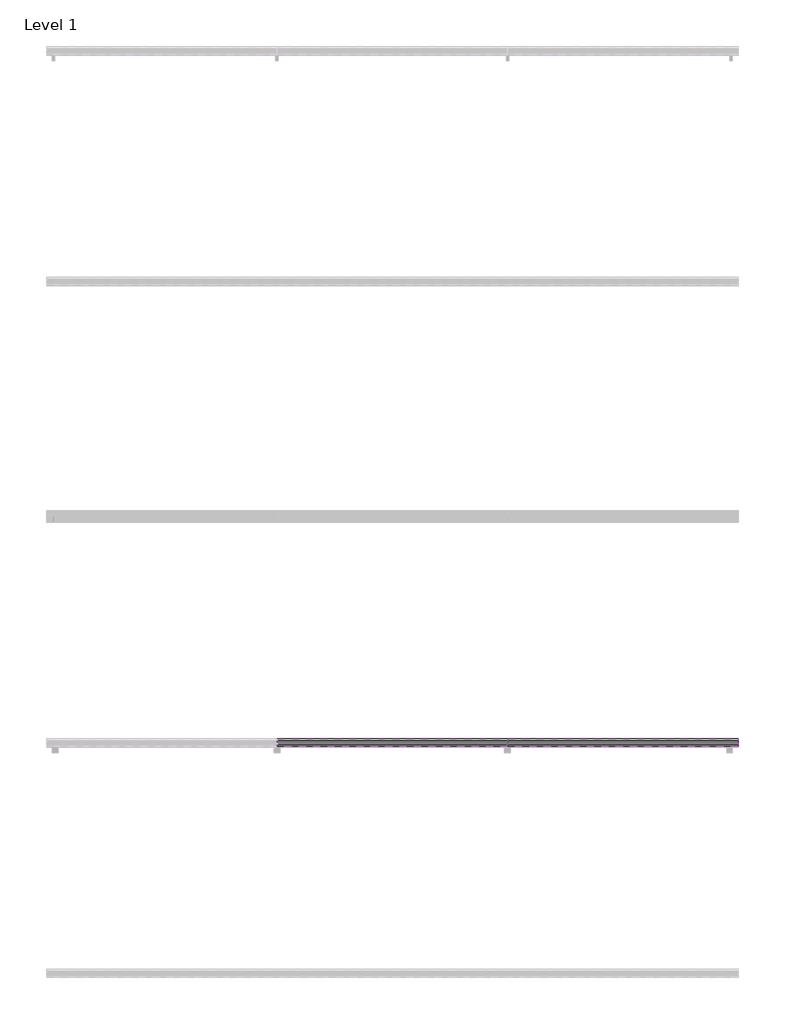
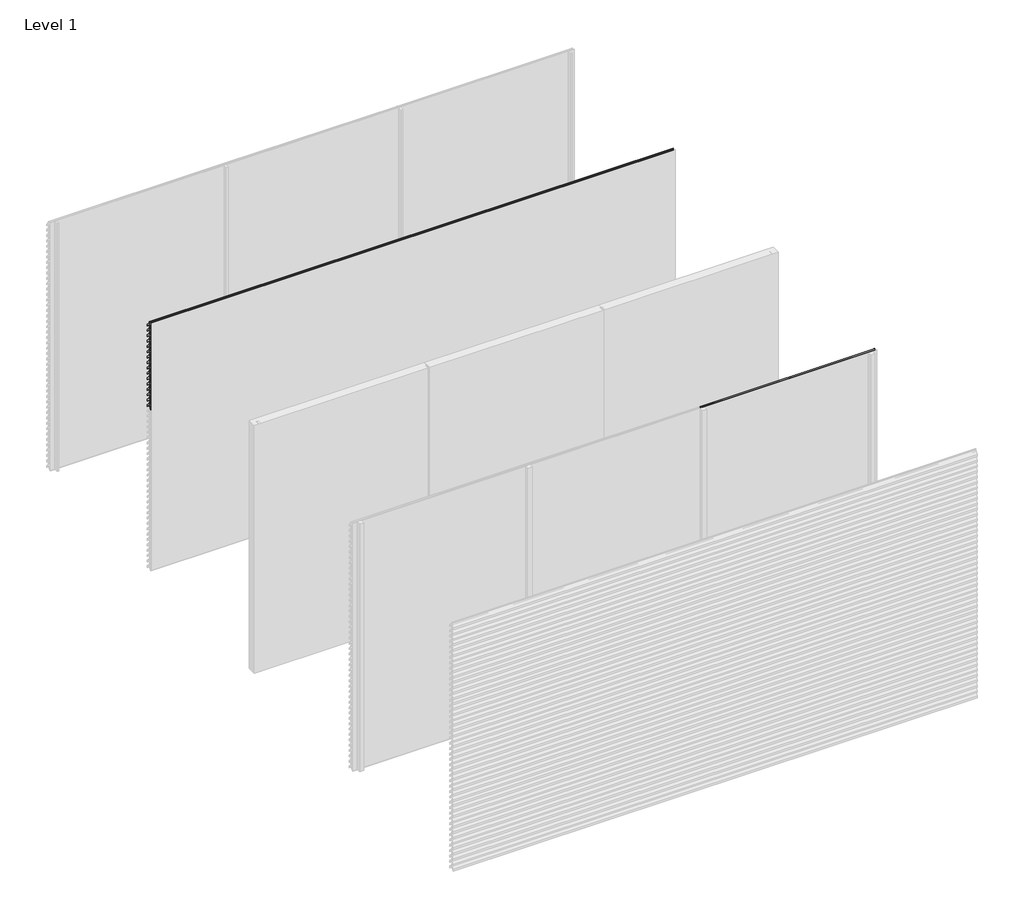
# One storey, part 5 of 9: 85 proxies.
"""IFC4 building model written with IfcOpenShell, lengths in millimetres."""

from ifc_helpers import new_model, si_unit, frame, origin, place, context, project, spatial, polyline, outline, extrude, element, save

model = new_model("IFC4")

# Units and contexts
model_context = context("Model", 3, world=origin())
ifc_project = project(units=[si_unit("LENGTHUNIT", "METRE", prefix="MILLI")], contexts=[model_context])

# Site, building, storey
site = spatial("IfcSite", under=ifc_project)
building = spatial("IfcBuilding", under=site)
storey = spatial("IfcBuildingStorey", under=building, Name="Level 1", Elevation=0.0)

# Proxies
placement = place(None, origin())
element("IfcBuildingElementProxy", 1, Name="Wall Sweeps", at=placement, inside=storey, context=model_context, shape_type="SweptSolid", body=[
    extrude(outline(polyline([(-7926.0, 2942.0), (-7926.0, 2919.0), (-7961.5, 2954.5), (-7997.0, 2919.0), (-7997.0, 2942.0), (-7962.5, 2976.5), (-7962.5, 2990.0), (-7960.5, 2990.0), (-7960.5, 2976.5), (-7926.0, 2942.0)])), frame((0.0, 0.0, 0.0), z_axis=(1.0, 0.0, 0.0), x_axis=(0.0, 1.0, 0.0)), (0.0, 0.0, 1.0), 6000.0),
])
element("IfcBuildingElementProxy", 2, Name="Wall Sweeps", at=placement, inside=storey, context=model_context, shape_type="SweptSolid", body=[
    extrude(outline(polyline([(-7926.0, 2877.0), (-7926.0, 2854.0), (-7961.5, 2889.5), (-7997.0, 2854.0), (-7997.0, 2877.0), (-7962.5, 2911.5), (-7962.5, 2925.0), (-7960.5, 2925.0), (-7960.5, 2911.5), (-7926.0, 2877.0)])), frame((0.0, 0.0, 0.0), z_axis=(1.0, 0.0, 0.0), x_axis=(0.0, 1.0, 0.0)), (0.0, 0.0, 1.0), 6000.0),
])
element("IfcBuildingElementProxy", 3, Name="Wall Sweeps", at=placement, inside=storey, context=model_context, shape_type="SweptSolid", body=[
    extrude(outline(polyline([(-7926.0, 2812.0), (-7926.0, 2789.0), (-7961.5, 2824.5), (-7997.0, 2789.0), (-7997.0, 2812.0), (-7962.5, 2846.5), (-7962.5, 2860.0), (-7960.5, 2860.0), (-7960.5, 2846.5), (-7926.0, 2812.0)])), frame((0.0, 0.0, 0.0), z_axis=(1.0, 0.0, 0.0), x_axis=(0.0, 1.0, 0.0)), (0.0, 0.0, 1.0), 6000.0),
])
element("IfcBuildingElementProxy", 4, Name="Wall Sweeps", at=placement, inside=storey, context=model_context, shape_type="SweptSolid", body=[
    extrude(outline(polyline([(-7926.0, 2747.0), (-7926.0, 2724.0), (-7961.5, 2759.5), (-7997.0, 2724.0), (-7997.0, 2747.0), (-7962.5, 2781.5), (-7962.5, 2795.0), (-7960.5, 2795.0), (-7960.5, 2781.5), (-7926.0, 2747.0)])), frame((0.0, 0.0, 0.0), z_axis=(1.0, 0.0, 0.0), x_axis=(0.0, 1.0, 0.0)), (0.0, 0.0, 1.0), 6000.0),
])
element("IfcBuildingElementProxy", 5, Name="Wall Sweeps", at=placement, inside=storey, context=model_context, shape_type="SweptSolid", body=[
    extrude(outline(polyline([(-7926.0, 2682.0), (-7926.0, 2659.0), (-7961.5, 2694.5), (-7997.0, 2659.0), (-7997.0, 2682.0), (-7962.5, 2716.5), (-7962.5, 2730.0), (-7960.5, 2730.0), (-7960.5, 2716.5), (-7926.0, 2682.0)])), frame((0.0, 0.0, 0.0), z_axis=(1.0, 0.0, 0.0), x_axis=(0.0, 1.0, 0.0)), (0.0, 0.0, 1.0), 6000.0),
])
element("IfcBuildingElementProxy", 6, Name="Wall Sweeps", at=placement, inside=storey, context=model_context, shape_type="SweptSolid", body=[
    extrude(outline(polyline([(-7926.0, 2617.0), (-7926.0, 2594.0), (-7961.5, 2629.5), (-7997.0, 2594.0), (-7997.0, 2617.0), (-7962.5, 2651.5), (-7962.5, 2665.0), (-7960.5, 2665.0), (-7960.5, 2651.5), (-7926.0, 2617.0)])), frame((0.0, 0.0, 0.0), z_axis=(1.0, 0.0, 0.0), x_axis=(0.0, 1.0, 0.0)), (0.0, 0.0, 1.0), 6000.0),
])
element("IfcBuildingElementProxy", 7, Name="Wall Sweeps", at=placement, inside=storey, context=model_context, shape_type="SweptSolid", body=[
    extrude(outline(polyline([(-7926.0, 2552.0), (-7926.0, 2529.0), (-7961.5, 2564.5), (-7997.0, 2529.0), (-7997.0, 2552.0), (-7962.5, 2586.5), (-7962.5, 2600.0), (-7960.5, 2600.0), (-7960.5, 2586.5), (-7926.0, 2552.0)])), frame((0.0, 0.0, 0.0), z_axis=(1.0, 0.0, 0.0), x_axis=(0.0, 1.0, 0.0)), (0.0, 0.0, 1.0), 6000.0),
])
element("IfcBuildingElementProxy", 8, Name="Wall Sweeps", at=placement, inside=storey, context=model_context, shape_type="SweptSolid", body=[
    extrude(outline(polyline([(-7926.0, 2487.0), (-7926.0, 2464.0), (-7961.5, 2499.5), (-7997.0, 2464.0), (-7997.0, 2487.0), (-7962.5, 2521.5), (-7962.5, 2535.0), (-7960.5, 2535.0), (-7960.5, 2521.5), (-7926.0, 2487.0)])), frame((0.0, 0.0, 0.0), z_axis=(1.0, 0.0, 0.0), x_axis=(0.0, 1.0, 0.0)), (0.0, 0.0, 1.0), 6000.0),
])
element("IfcBuildingElementProxy", 9, Name="Wall Sweeps", at=placement, inside=storey, context=model_context, shape_type="SweptSolid", body=[
    extrude(outline(polyline([(-7926.0, 2422.0), (-7926.0, 2399.0), (-7961.5, 2434.5), (-7997.0, 2399.0), (-7997.0, 2422.0), (-7962.5, 2456.5), (-7962.5, 2470.0), (-7960.5, 2470.0), (-7960.5, 2456.5), (-7926.0, 2422.0)])), frame((0.0, 0.0, 0.0), z_axis=(1.0, 0.0, 0.0), x_axis=(0.0, 1.0, 0.0)), (0.0, 0.0, 1.0), 6000.0),
])
element("IfcBuildingElementProxy", 10, Name="Wall Sweeps", at=placement, inside=storey, context=model_context, shape_type="SweptSolid", body=[
    extrude(outline(polyline([(-7926.0, 2357.0), (-7926.0, 2334.0), (-7961.5, 2369.5), (-7997.0, 2334.0), (-7997.0, 2357.0), (-7962.5, 2391.5), (-7962.5, 2405.0), (-7960.5, 2405.0), (-7960.5, 2391.5), (-7926.0, 2357.0)])), frame((0.0, 0.0, 0.0), z_axis=(1.0, 0.0, 0.0), x_axis=(0.0, 1.0, 0.0)), (0.0, 0.0, 1.0), 6000.0),
])
element("IfcBuildingElementProxy", 11, Name="Wall Sweeps", at=placement, inside=storey, context=model_context, shape_type="SweptSolid", body=[
    extrude(outline(polyline([(-7926.0, 2292.0), (-7926.0, 2269.0), (-7961.5, 2304.5), (-7997.0, 2269.0), (-7997.0, 2292.0), (-7962.5, 2326.5), (-7962.5, 2340.0), (-7960.5, 2340.0), (-7960.5, 2326.5), (-7926.0, 2292.0)])), frame((0.0, 0.0, 0.0), z_axis=(1.0, 0.0, 0.0), x_axis=(0.0, 1.0, 0.0)), (0.0, 0.0, 1.0), 6000.0),
])
element("IfcBuildingElementProxy", 12, Name="Wall Sweeps", at=placement, inside=storey, context=model_context, shape_type="SweptSolid", body=[
    extrude(outline(polyline([(-7926.0, 2227.0), (-7926.0, 2204.0), (-7961.5, 2239.5), (-7997.0, 2204.0), (-7997.0, 2227.0), (-7962.5, 2261.5), (-7962.5, 2275.0), (-7960.5, 2275.0), (-7960.5, 2261.5), (-7926.0, 2227.0)])), frame((0.0, 0.0, 0.0), z_axis=(1.0, 0.0, 0.0), x_axis=(0.0, 1.0, 0.0)), (0.0, 0.0, 1.0), 6000.0),
])
element("IfcBuildingElementProxy", 13, Name="Wall Sweeps", at=placement, inside=storey, context=model_context, shape_type="SweptSolid", body=[
    extrude(outline(polyline([(-7926.0, 2162.0), (-7926.0, 2139.0), (-7961.5, 2174.5), (-7997.0, 2139.0), (-7997.0, 2162.0), (-7962.5, 2196.5), (-7962.5, 2210.0), (-7960.5, 2210.0), (-7960.5, 2196.5), (-7926.0, 2162.0)])), frame((0.0, 0.0, 0.0), z_axis=(1.0, 0.0, 0.0), x_axis=(0.0, 1.0, 0.0)), (0.0, 0.0, 1.0), 6000.0),
])
element("IfcBuildingElementProxy", 14, Name="Wall Sweeps", at=placement, inside=storey, context=model_context, shape_type="SweptSolid", body=[
    extrude(outline(polyline([(-7926.0, 2097.0), (-7926.0, 2074.0), (-7961.5, 2109.5), (-7997.0, 2074.0), (-7997.0, 2097.0), (-7962.5, 2131.5), (-7962.5, 2145.0), (-7960.5, 2145.0), (-7960.5, 2131.5), (-7926.0, 2097.0)])), frame((0.0, 0.0, 0.0), z_axis=(1.0, 0.0, 0.0), x_axis=(0.0, 1.0, 0.0)), (0.0, 0.0, 1.0), 6000.0),
])
element("IfcBuildingElementProxy", 15, Name="Wall Sweeps", at=placement, inside=storey, context=model_context, shape_type="SweptSolid", body=[
    extrude(outline(polyline([(-7926.0, 2032.0), (-7926.0, 2009.0), (-7961.5, 2044.5), (-7997.0, 2009.0), (-7997.0, 2032.0), (-7962.5, 2066.5), (-7962.5, 2080.0), (-7960.5, 2080.0), (-7960.5, 2066.5), (-7926.0, 2032.0)])), frame((0.0, 0.0, 0.0), z_axis=(1.0, 0.0, 0.0), x_axis=(0.0, 1.0, 0.0)), (0.0, 0.0, 1.0), 6000.0),
])
element("IfcBuildingElementProxy", 16, Name="Wall Sweeps", at=placement, inside=storey, context=model_context, shape_type="SweptSolid", body=[
    extrude(outline(polyline([(-7926.0, 1967.0), (-7926.0, 1944.0), (-7961.5, 1979.5), (-7997.0, 1944.0), (-7997.0, 1967.0), (-7962.5, 2001.5), (-7962.5, 2015.0), (-7960.5, 2015.0), (-7960.5, 2001.5), (-7926.0, 1967.0)])), frame((0.0, 0.0, 0.0), z_axis=(1.0, 0.0, 0.0), x_axis=(0.0, 1.0, 0.0)), (0.0, 0.0, 1.0), 6000.0),
])
element("IfcBuildingElementProxy", 17, Name="Wall Sweeps", at=placement, inside=storey, context=model_context, shape_type="SweptSolid", body=[
    extrude(outline(polyline([(-11926.0, 1447.0), (-11926.0, 1424.0), (-11961.5, 1459.5), (-11997.0, 1424.0), (-11997.0, 1447.0), (-11962.5, 1481.5), (-11962.5, 1495.0), (-11960.5, 1495.0), (-11960.5, 1481.5), (-11926.0, 1447.0)])), frame((2000.0, 0.0, 0.0), z_axis=(1.0, 0.0, 0.0), x_axis=(0.0, 1.0, 0.0)), (0.0, 0.0, 1.0), 2000.0),
])
element("IfcBuildingElementProxy", 18, Name="Wall Sweeps", at=placement, inside=storey, context=model_context, shape_type="SweptSolid", body=[
    extrude(outline(polyline([(-11926.0, 1382.0), (-11926.0, 1359.0), (-11961.5, 1394.5), (-11997.0, 1359.0), (-11997.0, 1382.0), (-11962.5, 1416.5), (-11962.5, 1430.0), (-11960.5, 1430.0), (-11960.5, 1416.5), (-11926.0, 1382.0)])), frame((2000.0, 0.0, 0.0), z_axis=(1.0, 0.0, 0.0), x_axis=(0.0, 1.0, 0.0)), (0.0, 0.0, 1.0), 2000.0),
])
element("IfcBuildingElementProxy", 19, Name="Wall Sweeps", at=placement, inside=storey, context=model_context, shape_type="SweptSolid", body=[
    extrude(outline(polyline([(-11926.0, 1317.0), (-11926.0, 1294.0), (-11961.5, 1329.5), (-11997.0, 1294.0), (-11997.0, 1317.0), (-11962.5, 1351.5), (-11962.5, 1365.0), (-11960.5, 1365.0), (-11960.5, 1351.5), (-11926.0, 1317.0)])), frame((2000.0, 0.0, 0.0), z_axis=(1.0, 0.0, 0.0), x_axis=(0.0, 1.0, 0.0)), (0.0, 0.0, 1.0), 2000.0),
])
element("IfcBuildingElementProxy", 20, Name="Wall Sweeps", at=placement, inside=storey, context=model_context, shape_type="SweptSolid", body=[
    extrude(outline(polyline([(-11926.0, 1252.0), (-11926.0, 1229.0), (-11961.5, 1264.5), (-11997.0, 1229.0), (-11997.0, 1252.0), (-11962.5, 1286.5), (-11962.5, 1300.0), (-11960.5, 1300.0), (-11960.5, 1286.5), (-11926.0, 1252.0)])), frame((2000.0, 0.0, 0.0), z_axis=(1.0, 0.0, 0.0), x_axis=(0.0, 1.0, 0.0)), (0.0, 0.0, 1.0), 2000.0),
])
element("IfcBuildingElementProxy", 21, Name="Wall Sweeps", at=placement, inside=storey, context=model_context, shape_type="SweptSolid", body=[
    extrude(outline(polyline([(-11926.0, 1187.0), (-11926.0, 1164.0), (-11961.5, 1199.5), (-11997.0, 1164.0), (-11997.0, 1187.0), (-11962.5, 1221.5), (-11962.5, 1235.0), (-11960.5, 1235.0), (-11960.5, 1221.5), (-11926.0, 1187.0)])), frame((2000.0, 0.0, 0.0), z_axis=(1.0, 0.0, 0.0), x_axis=(0.0, 1.0, 0.0)), (0.0, 0.0, 1.0), 2000.0),
])
element("IfcBuildingElementProxy", 22, Name="Wall Sweeps", at=placement, inside=storey, context=model_context, shape_type="SweptSolid", body=[
    extrude(outline(polyline([(-11926.0, 1122.0), (-11926.0, 1099.0), (-11961.5, 1134.5), (-11997.0, 1099.0), (-11997.0, 1122.0), (-11962.5, 1156.5), (-11962.5, 1170.0), (-11960.5, 1170.0), (-11960.5, 1156.5), (-11926.0, 1122.0)])), frame((2000.0, 0.0, 0.0), z_axis=(1.0, 0.0, 0.0), x_axis=(0.0, 1.0, 0.0)), (0.0, 0.0, 1.0), 2000.0),
])
element("IfcBuildingElementProxy", 23, Name="Wall Sweeps", at=placement, inside=storey, context=model_context, shape_type="SweptSolid", body=[
    extrude(outline(polyline([(-11926.0, 1057.0), (-11926.0, 1034.0), (-11961.5, 1069.5), (-11997.0, 1034.0), (-11997.0, 1057.0), (-11962.5, 1091.5), (-11962.5, 1105.0), (-11960.5, 1105.0), (-11960.5, 1091.5), (-11926.0, 1057.0)])), frame((2000.0, 0.0, 0.0), z_axis=(1.0, 0.0, 0.0), x_axis=(0.0, 1.0, 0.0)), (0.0, 0.0, 1.0), 2000.0),
])
element("IfcBuildingElementProxy", 24, Name="Wall Sweeps", at=placement, inside=storey, context=model_context, shape_type="SweptSolid", body=[
    extrude(outline(polyline([(-11926.0, 992.0), (-11926.0, 969.0), (-11961.5, 1004.5), (-11997.0, 969.0), (-11997.0, 992.0), (-11962.5, 1026.5), (-11962.5, 1040.0), (-11960.5, 1040.0), (-11960.5, 1026.5), (-11926.0, 992.0)])), frame((2000.0, 0.0, 0.0), z_axis=(1.0, 0.0, 0.0), x_axis=(0.0, 1.0, 0.0)), (0.0, 0.0, 1.0), 2000.0),
])
element("IfcBuildingElementProxy", 25, Name="Wall Sweeps", at=placement, inside=storey, context=model_context, shape_type="SweptSolid", body=[
    extrude(outline(polyline([(-11926.0, 927.0), (-11926.0, 904.0), (-11961.5, 939.5), (-11997.0, 904.0), (-11997.0, 927.0), (-11962.5, 961.5), (-11962.5, 975.0), (-11960.5, 975.0), (-11960.5, 961.5), (-11926.0, 927.0)])), frame((2000.0, 0.0, 0.0), z_axis=(1.0, 0.0, 0.0), x_axis=(0.0, 1.0, 0.0)), (0.0, 0.0, 1.0), 2000.0),
])
element("IfcBuildingElementProxy", 26, Name="Wall Sweeps", at=placement, inside=storey, context=model_context, shape_type="SweptSolid", body=[
    extrude(outline(polyline([(-11926.0, 862.0), (-11926.0, 839.0), (-11961.5, 874.5), (-11997.0, 839.0), (-11997.0, 862.0), (-11962.5, 896.5), (-11962.5, 910.0), (-11960.5, 910.0), (-11960.5, 896.5), (-11926.0, 862.0)])), frame((2000.0, 0.0, 0.0), z_axis=(1.0, 0.0, 0.0), x_axis=(0.0, 1.0, 0.0)), (0.0, 0.0, 1.0), 2000.0),
])
element("IfcBuildingElementProxy", 27, Name="Wall Sweeps", at=placement, inside=storey, context=model_context, shape_type="SweptSolid", body=[
    extrude(outline(polyline([(-11926.0, 797.0), (-11926.0, 774.0), (-11961.5, 809.5), (-11997.0, 774.0), (-11997.0, 797.0), (-11962.5, 831.5), (-11962.5, 845.0), (-11960.5, 845.0), (-11960.5, 831.5), (-11926.0, 797.0)])), frame((2000.0, 0.0, 0.0), z_axis=(1.0, 0.0, 0.0), x_axis=(0.0, 1.0, 0.0)), (0.0, 0.0, 1.0), 2000.0),
])
element("IfcBuildingElementProxy", 28, Name="Wall Sweeps", at=placement, inside=storey, context=model_context, shape_type="SweptSolid", body=[
    extrude(outline(polyline([(-11926.0, 732.0), (-11926.0, 709.0), (-11961.5, 744.5), (-11997.0, 709.0), (-11997.0, 732.0), (-11962.5, 766.5), (-11962.5, 780.0), (-11960.5, 780.0), (-11960.5, 766.5), (-11926.0, 732.0)])), frame((2000.0, 0.0, 0.0), z_axis=(1.0, 0.0, 0.0), x_axis=(0.0, 1.0, 0.0)), (0.0, 0.0, 1.0), 2000.0),
])
element("IfcBuildingElementProxy", 29, Name="Wall Sweeps", at=placement, inside=storey, context=model_context, shape_type="SweptSolid", body=[
    extrude(outline(polyline([(-11926.0, 667.0), (-11926.0, 644.0), (-11961.5, 679.5), (-11997.0, 644.0), (-11997.0, 667.0), (-11962.5, 701.5), (-11962.5, 715.0), (-11960.5, 715.0), (-11960.5, 701.5), (-11926.0, 667.0)])), frame((2000.0, 0.0, 0.0), z_axis=(1.0, 0.0, 0.0), x_axis=(0.0, 1.0, 0.0)), (0.0, 0.0, 1.0), 2000.0),
])
element("IfcBuildingElementProxy", 30, Name="Wall Sweeps", at=placement, inside=storey, context=model_context, shape_type="SweptSolid", body=[
    extrude(outline(polyline([(-11926.0, 602.0), (-11926.0, 579.0), (-11961.5, 614.5), (-11997.0, 579.0), (-11997.0, 602.0), (-11962.5, 636.5), (-11962.5, 650.0), (-11960.5, 650.0), (-11960.5, 636.5), (-11926.0, 602.0)])), frame((2000.0, 0.0, 0.0), z_axis=(1.0, 0.0, 0.0), x_axis=(0.0, 1.0, 0.0)), (0.0, 0.0, 1.0), 2000.0),
])
element("IfcBuildingElementProxy", 31, Name="Wall Sweeps", at=placement, inside=storey, context=model_context, shape_type="SweptSolid", body=[
    extrude(outline(polyline([(-11926.0, 537.0), (-11926.0, 514.0), (-11961.5, 549.5), (-11997.0, 514.0), (-11997.0, 537.0), (-11962.5, 571.5), (-11962.5, 585.0), (-11960.5, 585.0), (-11960.5, 571.5), (-11926.0, 537.0)])), frame((2000.0, 0.0, 0.0), z_axis=(1.0, 0.0, 0.0), x_axis=(0.0, 1.0, 0.0)), (0.0, 0.0, 1.0), 2000.0),
])
element("IfcBuildingElementProxy", 32, Name="Wall Sweeps", at=placement, inside=storey, context=model_context, shape_type="SweptSolid", body=[
    extrude(outline(polyline([(-11926.0, 472.0), (-11926.0, 449.0), (-11961.5, 484.5), (-11997.0, 449.0), (-11997.0, 472.0), (-11962.5, 506.5), (-11962.5, 520.0), (-11960.5, 520.0), (-11960.5, 506.5), (-11926.0, 472.0)])), frame((2000.0, 0.0, 0.0), z_axis=(1.0, 0.0, 0.0), x_axis=(0.0, 1.0, 0.0)), (0.0, 0.0, 1.0), 2000.0),
])
element("IfcBuildingElementProxy", 33, Name="Wall Sweeps", at=placement, inside=storey, context=model_context, shape_type="SweptSolid", body=[
    extrude(outline(polyline([(-11926.0, 407.0), (-11926.0, 384.0), (-11961.5, 419.5), (-11997.0, 384.0), (-11997.0, 407.0), (-11962.5, 441.5), (-11962.5, 455.0), (-11960.5, 455.0), (-11960.5, 441.5), (-11926.0, 407.0)])), frame((2000.0, 0.0, 0.0), z_axis=(1.0, 0.0, 0.0), x_axis=(0.0, 1.0, 0.0)), (0.0, 0.0, 1.0), 2000.0),
])
element("IfcBuildingElementProxy", 34, Name="Wall Sweeps", at=placement, inside=storey, context=model_context, shape_type="SweptSolid", body=[
    extrude(outline(polyline([(-11926.0, 342.0), (-11926.0, 319.0), (-11961.5, 354.5), (-11997.0, 319.0), (-11997.0, 342.0), (-11962.5, 376.5), (-11962.5, 390.0), (-11960.5, 390.0), (-11960.5, 376.5), (-11926.0, 342.0)])), frame((2000.0, 0.0, 0.0), z_axis=(1.0, 0.0, 0.0), x_axis=(0.0, 1.0, 0.0)), (0.0, 0.0, 1.0), 2000.0),
])
element("IfcBuildingElementProxy", 35, Name="Wall Sweeps", at=placement, inside=storey, context=model_context, shape_type="SweptSolid", body=[
    extrude(outline(polyline([(-11926.0, 277.0), (-11926.0, 254.0), (-11961.5, 289.5), (-11997.0, 254.0), (-11997.0, 277.0), (-11962.5, 311.5), (-11962.5, 325.0), (-11960.5, 325.0), (-11960.5, 311.5), (-11926.0, 277.0)])), frame((2000.0, 0.0, 0.0), z_axis=(1.0, 0.0, 0.0), x_axis=(0.0, 1.0, 0.0)), (0.0, 0.0, 1.0), 2000.0),
])
element("IfcBuildingElementProxy", 36, Name="Wall Sweeps", at=placement, inside=storey, context=model_context, shape_type="SweptSolid", body=[
    extrude(outline(polyline([(-11926.0, 212.0), (-11926.0, 189.0), (-11961.5, 224.5), (-11997.0, 189.0), (-11997.0, 212.0), (-11962.5, 246.5), (-11962.5, 260.0), (-11960.5, 260.0), (-11960.5, 246.5), (-11926.0, 212.0)])), frame((2000.0, 0.0, 0.0), z_axis=(1.0, 0.0, 0.0), x_axis=(0.0, 1.0, 0.0)), (0.0, 0.0, 1.0), 2000.0),
])
element("IfcBuildingElementProxy", 37, Name="Wall Sweeps", at=placement, inside=storey, context=model_context, shape_type="SweptSolid", body=[
    extrude(outline(polyline([(-11926.0, 147.0), (-11926.0, 124.0), (-11961.5, 159.5), (-11997.0, 124.0), (-11997.0, 147.0), (-11962.5, 181.5), (-11962.5, 195.0), (-11960.5, 195.0), (-11960.5, 181.5), (-11926.0, 147.0)])), frame((2000.0, 0.0, 0.0), z_axis=(1.0, 0.0, 0.0), x_axis=(0.0, 1.0, 0.0)), (0.0, 0.0, 1.0), 2000.0),
])
element("IfcBuildingElementProxy", 38, Name="Wall Sweeps", at=placement, inside=storey, context=model_context, shape_type="SweptSolid", body=[
    extrude(outline(polyline([(-11926.0, 82.0), (-11926.0, 59.0), (-11961.5, 94.5), (-11997.0, 59.0), (-11997.0, 82.0), (-11962.5, 116.5), (-11962.5, 130.0), (-11960.5, 130.0), (-11960.5, 116.5), (-11926.0, 82.0)])), frame((2000.0, 0.0, 0.0), z_axis=(1.0, 0.0, 0.0), x_axis=(0.0, 1.0, 0.0)), (0.0, 0.0, 1.0), 2000.0),
])
element("IfcBuildingElementProxy", 39, Name="Wall Sweeps", at=placement, inside=storey, context=model_context, shape_type="SweptSolid", body=[
    extrude(outline(polyline([(-11926.0, 17.0), (-11926.0, -6.0), (-11961.5, 29.5), (-11997.0, -6.0), (-11997.0, 17.0), (-11962.5, 51.5), (-11962.5, 65.0), (-11960.5, 65.0), (-11960.5, 51.5), (-11926.0, 17.0)])), frame((2000.0, 0.0, 0.0), z_axis=(1.0, 0.0, 0.0), x_axis=(0.0, 1.0, 0.0)), (0.0, 0.0, 1.0), 2000.0),
])
element("IfcBuildingElementProxy", 40, Name="Wall Sweeps", at=placement, inside=storey, context=model_context, shape_type="SweptSolid", body=[
    extrude(outline(polyline([(-11926.0, 2942.0), (-11926.0, 2919.0), (-11961.5, 2954.5), (-11997.0, 2919.0), (-11997.0, 2942.0), (-11962.5, 2976.5), (-11962.5, 2990.0), (-11960.5, 2990.0), (-11960.5, 2976.5), (-11926.0, 2942.0)])), frame((4000.0, 0.0, 0.0), z_axis=(1.0, 0.0, 0.0), x_axis=(0.0, 1.0, 0.0)), (0.0, 0.0, 1.0), 2000.0),
])
element("IfcBuildingElementProxy", 41, Name="Wall Sweeps", at=placement, inside=storey, context=model_context, shape_type="SweptSolid", body=[
    extrude(outline(polyline([(-11926.0, 2877.0), (-11926.0, 2854.0), (-11961.5, 2889.5), (-11997.0, 2854.0), (-11997.0, 2877.0), (-11962.5, 2911.5), (-11962.5, 2925.0), (-11960.5, 2925.0), (-11960.5, 2911.5), (-11926.0, 2877.0)])), frame((4000.0, 0.0, 0.0), z_axis=(1.0, 0.0, 0.0), x_axis=(0.0, 1.0, 0.0)), (0.0, 0.0, 1.0), 2000.0),
])
element("IfcBuildingElementProxy", 42, Name="Wall Sweeps", at=placement, inside=storey, context=model_context, shape_type="SweptSolid", body=[
    extrude(outline(polyline([(-11926.0, 2812.0), (-11926.0, 2789.0), (-11961.5, 2824.5), (-11997.0, 2789.0), (-11997.0, 2812.0), (-11962.5, 2846.5), (-11962.5, 2860.0), (-11960.5, 2860.0), (-11960.5, 2846.5), (-11926.0, 2812.0)])), frame((4000.0, 0.0, 0.0), z_axis=(1.0, 0.0, 0.0), x_axis=(0.0, 1.0, 0.0)), (0.0, 0.0, 1.0), 2000.0),
])
element("IfcBuildingElementProxy", 43, Name="Wall Sweeps", at=placement, inside=storey, context=model_context, shape_type="SweptSolid", body=[
    extrude(outline(polyline([(-11926.0, 2747.0), (-11926.0, 2724.0), (-11961.5, 2759.5), (-11997.0, 2724.0), (-11997.0, 2747.0), (-11962.5, 2781.5), (-11962.5, 2795.0), (-11960.5, 2795.0), (-11960.5, 2781.5), (-11926.0, 2747.0)])), frame((4000.0, 0.0, 0.0), z_axis=(1.0, 0.0, 0.0), x_axis=(0.0, 1.0, 0.0)), (0.0, 0.0, 1.0), 2000.0),
])
element("IfcBuildingElementProxy", 44, Name="Wall Sweeps", at=placement, inside=storey, context=model_context, shape_type="SweptSolid", body=[
    extrude(outline(polyline([(-11926.0, 2682.0), (-11926.0, 2659.0), (-11961.5, 2694.5), (-11997.0, 2659.0), (-11997.0, 2682.0), (-11962.5, 2716.5), (-11962.5, 2730.0), (-11960.5, 2730.0), (-11960.5, 2716.5), (-11926.0, 2682.0)])), frame((4000.0, 0.0, 0.0), z_axis=(1.0, 0.0, 0.0), x_axis=(0.0, 1.0, 0.0)), (0.0, 0.0, 1.0), 2000.0),
])
element("IfcBuildingElementProxy", 45, Name="Wall Sweeps", at=placement, inside=storey, context=model_context, shape_type="SweptSolid", body=[
    extrude(outline(polyline([(-11926.0, 2617.0), (-11926.0, 2594.0), (-11961.5, 2629.5), (-11997.0, 2594.0), (-11997.0, 2617.0), (-11962.5, 2651.5), (-11962.5, 2665.0), (-11960.5, 2665.0), (-11960.5, 2651.5), (-11926.0, 2617.0)])), frame((4000.0, 0.0, 0.0), z_axis=(1.0, 0.0, 0.0), x_axis=(0.0, 1.0, 0.0)), (0.0, 0.0, 1.0), 2000.0),
])
element("IfcBuildingElementProxy", 46, Name="Wall Sweeps", at=placement, inside=storey, context=model_context, shape_type="SweptSolid", body=[
    extrude(outline(polyline([(-11926.0, 2552.0), (-11926.0, 2529.0), (-11961.5, 2564.5), (-11997.0, 2529.0), (-11997.0, 2552.0), (-11962.5, 2586.5), (-11962.5, 2600.0), (-11960.5, 2600.0), (-11960.5, 2586.5), (-11926.0, 2552.0)])), frame((4000.0, 0.0, 0.0), z_axis=(1.0, 0.0, 0.0), x_axis=(0.0, 1.0, 0.0)), (0.0, 0.0, 1.0), 2000.0),
])
element("IfcBuildingElementProxy", 47, Name="Wall Sweeps", at=placement, inside=storey, context=model_context, shape_type="SweptSolid", body=[
    extrude(outline(polyline([(-11926.0, 2487.0), (-11926.0, 2464.0), (-11961.5, 2499.5), (-11997.0, 2464.0), (-11997.0, 2487.0), (-11962.5, 2521.5), (-11962.5, 2535.0), (-11960.5, 2535.0), (-11960.5, 2521.5), (-11926.0, 2487.0)])), frame((4000.0, 0.0, 0.0), z_axis=(1.0, 0.0, 0.0), x_axis=(0.0, 1.0, 0.0)), (0.0, 0.0, 1.0), 2000.0),
])
element("IfcBuildingElementProxy", 48, Name="Wall Sweeps", at=placement, inside=storey, context=model_context, shape_type="SweptSolid", body=[
    extrude(outline(polyline([(-11926.0, 2422.0), (-11926.0, 2399.0), (-11961.5, 2434.5), (-11997.0, 2399.0), (-11997.0, 2422.0), (-11962.5, 2456.5), (-11962.5, 2470.0), (-11960.5, 2470.0), (-11960.5, 2456.5), (-11926.0, 2422.0)])), frame((4000.0, 0.0, 0.0), z_axis=(1.0, 0.0, 0.0), x_axis=(0.0, 1.0, 0.0)), (0.0, 0.0, 1.0), 2000.0),
])
element("IfcBuildingElementProxy", 49, Name="Wall Sweeps", at=placement, inside=storey, context=model_context, shape_type="SweptSolid", body=[
    extrude(outline(polyline([(-11926.0, 2357.0), (-11926.0, 2334.0), (-11961.5, 2369.5), (-11997.0, 2334.0), (-11997.0, 2357.0), (-11962.5, 2391.5), (-11962.5, 2405.0), (-11960.5, 2405.0), (-11960.5, 2391.5), (-11926.0, 2357.0)])), frame((4000.0, 0.0, 0.0), z_axis=(1.0, 0.0, 0.0), x_axis=(0.0, 1.0, 0.0)), (0.0, 0.0, 1.0), 2000.0),
])
element("IfcBuildingElementProxy", 50, Name="Wall Sweeps", at=placement, inside=storey, context=model_context, shape_type="SweptSolid", body=[
    extrude(outline(polyline([(-11926.0, 2292.0), (-11926.0, 2269.0), (-11961.5, 2304.5), (-11997.0, 2269.0), (-11997.0, 2292.0), (-11962.5, 2326.5), (-11962.5, 2340.0), (-11960.5, 2340.0), (-11960.5, 2326.5), (-11926.0, 2292.0)])), frame((4000.0, 0.0, 0.0), z_axis=(1.0, 0.0, 0.0), x_axis=(0.0, 1.0, 0.0)), (0.0, 0.0, 1.0), 2000.0),
])
element("IfcBuildingElementProxy", 51, Name="Wall Sweeps", at=placement, inside=storey, context=model_context, shape_type="SweptSolid", body=[
    extrude(outline(polyline([(-11926.0, 2227.0), (-11926.0, 2204.0), (-11961.5, 2239.5), (-11997.0, 2204.0), (-11997.0, 2227.0), (-11962.5, 2261.5), (-11962.5, 2275.0), (-11960.5, 2275.0), (-11960.5, 2261.5), (-11926.0, 2227.0)])), frame((4000.0, 0.0, 0.0), z_axis=(1.0, 0.0, 0.0), x_axis=(0.0, 1.0, 0.0)), (0.0, 0.0, 1.0), 2000.0),
])
element("IfcBuildingElementProxy", 52, Name="Wall Sweeps", at=placement, inside=storey, context=model_context, shape_type="SweptSolid", body=[
    extrude(outline(polyline([(-11926.0, 2162.0), (-11926.0, 2139.0), (-11961.5, 2174.5), (-11997.0, 2139.0), (-11997.0, 2162.0), (-11962.5, 2196.5), (-11962.5, 2210.0), (-11960.5, 2210.0), (-11960.5, 2196.5), (-11926.0, 2162.0)])), frame((4000.0, 0.0, 0.0), z_axis=(1.0, 0.0, 0.0), x_axis=(0.0, 1.0, 0.0)), (0.0, 0.0, 1.0), 2000.0),
])
element("IfcBuildingElementProxy", 53, Name="Wall Sweeps", at=placement, inside=storey, context=model_context, shape_type="SweptSolid", body=[
    extrude(outline(polyline([(-11926.0, 2097.0), (-11926.0, 2074.0), (-11961.5, 2109.5), (-11997.0, 2074.0), (-11997.0, 2097.0), (-11962.5, 2131.5), (-11962.5, 2145.0), (-11960.5, 2145.0), (-11960.5, 2131.5), (-11926.0, 2097.0)])), frame((4000.0, 0.0, 0.0), z_axis=(1.0, 0.0, 0.0), x_axis=(0.0, 1.0, 0.0)), (0.0, 0.0, 1.0), 2000.0),
])
element("IfcBuildingElementProxy", 54, Name="Wall Sweeps", at=placement, inside=storey, context=model_context, shape_type="SweptSolid", body=[
    extrude(outline(polyline([(-11926.0, 2032.0), (-11926.0, 2009.0), (-11961.5, 2044.5), (-11997.0, 2009.0), (-11997.0, 2032.0), (-11962.5, 2066.5), (-11962.5, 2080.0), (-11960.5, 2080.0), (-11960.5, 2066.5), (-11926.0, 2032.0)])), frame((4000.0, 0.0, 0.0), z_axis=(1.0, 0.0, 0.0), x_axis=(0.0, 1.0, 0.0)), (0.0, 0.0, 1.0), 2000.0),
])
element("IfcBuildingElementProxy", 55, Name="Wall Sweeps", at=placement, inside=storey, context=model_context, shape_type="SweptSolid", body=[
    extrude(outline(polyline([(-11926.0, 1967.0), (-11926.0, 1944.0), (-11961.5, 1979.5), (-11997.0, 1944.0), (-11997.0, 1967.0), (-11962.5, 2001.5), (-11962.5, 2015.0), (-11960.5, 2015.0), (-11960.5, 2001.5), (-11926.0, 1967.0)])), frame((4000.0, 0.0, 0.0), z_axis=(1.0, 0.0, 0.0), x_axis=(0.0, 1.0, 0.0)), (0.0, 0.0, 1.0), 2000.0),
])
element("IfcBuildingElementProxy", 56, Name="Wall Sweeps", at=placement, inside=storey, context=model_context, shape_type="SweptSolid", body=[
    extrude(outline(polyline([(-11926.0, 1902.0), (-11926.0, 1879.0), (-11961.5, 1914.5), (-11997.0, 1879.0), (-11997.0, 1902.0), (-11962.5, 1936.5), (-11962.5, 1950.0), (-11960.5, 1950.0), (-11960.5, 1936.5), (-11926.0, 1902.0)])), frame((4000.0, 0.0, 0.0), z_axis=(1.0, 0.0, 0.0), x_axis=(0.0, 1.0, 0.0)), (0.0, 0.0, 1.0), 2000.0),
])
element("IfcBuildingElementProxy", 57, Name="Wall Sweeps", at=placement, inside=storey, context=model_context, shape_type="SweptSolid", body=[
    extrude(outline(polyline([(-11926.0, 1837.0), (-11926.0, 1814.0), (-11961.5, 1849.5), (-11997.0, 1814.0), (-11997.0, 1837.0), (-11962.5, 1871.5), (-11962.5, 1885.0), (-11960.5, 1885.0), (-11960.5, 1871.5), (-11926.0, 1837.0)])), frame((4000.0, 0.0, 0.0), z_axis=(1.0, 0.0, 0.0), x_axis=(0.0, 1.0, 0.0)), (0.0, 0.0, 1.0), 2000.0),
])
element("IfcBuildingElementProxy", 58, Name="Wall Sweeps", at=placement, inside=storey, context=model_context, shape_type="SweptSolid", body=[
    extrude(outline(polyline([(-11926.0, 1772.0), (-11926.0, 1749.0), (-11961.5, 1784.5), (-11997.0, 1749.0), (-11997.0, 1772.0), (-11962.5, 1806.5), (-11962.5, 1820.0), (-11960.5, 1820.0), (-11960.5, 1806.5), (-11926.0, 1772.0)])), frame((4000.0, 0.0, 0.0), z_axis=(1.0, 0.0, 0.0), x_axis=(0.0, 1.0, 0.0)), (0.0, 0.0, 1.0), 2000.0),
])
element("IfcBuildingElementProxy", 59, Name="Wall Sweeps", at=placement, inside=storey, context=model_context, shape_type="SweptSolid", body=[
    extrude(outline(polyline([(-11926.0, 1707.0), (-11926.0, 1684.0), (-11961.5, 1719.5), (-11997.0, 1684.0), (-11997.0, 1707.0), (-11962.5, 1741.5), (-11962.5, 1755.0), (-11960.5, 1755.0), (-11960.5, 1741.5), (-11926.0, 1707.0)])), frame((4000.0, 0.0, 0.0), z_axis=(1.0, 0.0, 0.0), x_axis=(0.0, 1.0, 0.0)), (0.0, 0.0, 1.0), 2000.0),
])
element("IfcBuildingElementProxy", 60, Name="Wall Sweeps", at=placement, inside=storey, context=model_context, shape_type="SweptSolid", body=[
    extrude(outline(polyline([(-11926.0, 1642.0), (-11926.0, 1619.0), (-11961.5, 1654.5), (-11997.0, 1619.0), (-11997.0, 1642.0), (-11962.5, 1676.5), (-11962.5, 1690.0), (-11960.5, 1690.0), (-11960.5, 1676.5), (-11926.0, 1642.0)])), frame((4000.0, 0.0, 0.0), z_axis=(1.0, 0.0, 0.0), x_axis=(0.0, 1.0, 0.0)), (0.0, 0.0, 1.0), 2000.0),
])
element("IfcBuildingElementProxy", 61, Name="Wall Sweeps", at=placement, inside=storey, context=model_context, shape_type="SweptSolid", body=[
    extrude(outline(polyline([(-11926.0, 1577.0), (-11926.0, 1554.0), (-11961.5, 1589.5), (-11997.0, 1554.0), (-11997.0, 1577.0), (-11962.5, 1611.5), (-11962.5, 1625.0), (-11960.5, 1625.0), (-11960.5, 1611.5), (-11926.0, 1577.0)])), frame((4000.0, 0.0, 0.0), z_axis=(1.0, 0.0, 0.0), x_axis=(0.0, 1.0, 0.0)), (0.0, 0.0, 1.0), 2000.0),
])
element("IfcBuildingElementProxy", 62, Name="Wall Sweeps", at=placement, inside=storey, context=model_context, shape_type="SweptSolid", body=[
    extrude(outline(polyline([(-11926.0, 1512.0), (-11926.0, 1489.0), (-11961.5, 1524.5), (-11997.0, 1489.0), (-11997.0, 1512.0), (-11962.5, 1546.5), (-11962.5, 1560.0), (-11960.5, 1560.0), (-11960.5, 1546.5), (-11926.0, 1512.0)])), frame((4000.0, 0.0, 0.0), z_axis=(1.0, 0.0, 0.0), x_axis=(0.0, 1.0, 0.0)), (0.0, 0.0, 1.0), 2000.0),
])
element("IfcBuildingElementProxy", 63, Name="Wall Sweeps", at=placement, inside=storey, context=model_context, shape_type="SweptSolid", body=[
    extrude(outline(polyline([(-11926.0, 1447.0), (-11926.0, 1424.0), (-11961.5, 1459.5), (-11997.0, 1424.0), (-11997.0, 1447.0), (-11962.5, 1481.5), (-11962.5, 1495.0), (-11960.5, 1495.0), (-11960.5, 1481.5), (-11926.0, 1447.0)])), frame((4000.0, 0.0, 0.0), z_axis=(1.0, 0.0, 0.0), x_axis=(0.0, 1.0, 0.0)), (0.0, 0.0, 1.0), 2000.0),
])
element("IfcBuildingElementProxy", 64, Name="Wall Sweeps", at=placement, inside=storey, context=model_context, shape_type="SweptSolid", body=[
    extrude(outline(polyline([(-11926.0, 1382.0), (-11926.0, 1359.0), (-11961.5, 1394.5), (-11997.0, 1359.0), (-11997.0, 1382.0), (-11962.5, 1416.5), (-11962.5, 1430.0), (-11960.5, 1430.0), (-11960.5, 1416.5), (-11926.0, 1382.0)])), frame((4000.0, 0.0, 0.0), z_axis=(1.0, 0.0, 0.0), x_axis=(0.0, 1.0, 0.0)), (0.0, 0.0, 1.0), 2000.0),
])
element("IfcBuildingElementProxy", 65, Name="Wall Sweeps", at=placement, inside=storey, context=model_context, shape_type="SweptSolid", body=[
    extrude(outline(polyline([(-11926.0, 1317.0), (-11926.0, 1294.0), (-11961.5, 1329.5), (-11997.0, 1294.0), (-11997.0, 1317.0), (-11962.5, 1351.5), (-11962.5, 1365.0), (-11960.5, 1365.0), (-11960.5, 1351.5), (-11926.0, 1317.0)])), frame((4000.0, 0.0, 0.0), z_axis=(1.0, 0.0, 0.0), x_axis=(0.0, 1.0, 0.0)), (0.0, 0.0, 1.0), 2000.0),
])
element("IfcBuildingElementProxy", 66, Name="Wall Sweeps", at=placement, inside=storey, context=model_context, shape_type="SweptSolid", body=[
    extrude(outline(polyline([(-11926.0, 1252.0), (-11926.0, 1229.0), (-11961.5, 1264.5), (-11997.0, 1229.0), (-11997.0, 1252.0), (-11962.5, 1286.5), (-11962.5, 1300.0), (-11960.5, 1300.0), (-11960.5, 1286.5), (-11926.0, 1252.0)])), frame((4000.0, 0.0, 0.0), z_axis=(1.0, 0.0, 0.0), x_axis=(0.0, 1.0, 0.0)), (0.0, 0.0, 1.0), 2000.0),
])
element("IfcBuildingElementProxy", 67, Name="Wall Sweeps", at=placement, inside=storey, context=model_context, shape_type="SweptSolid", body=[
    extrude(outline(polyline([(-11926.0, 1187.0), (-11926.0, 1164.0), (-11961.5, 1199.5), (-11997.0, 1164.0), (-11997.0, 1187.0), (-11962.5, 1221.5), (-11962.5, 1235.0), (-11960.5, 1235.0), (-11960.5, 1221.5), (-11926.0, 1187.0)])), frame((4000.0, 0.0, 0.0), z_axis=(1.0, 0.0, 0.0), x_axis=(0.0, 1.0, 0.0)), (0.0, 0.0, 1.0), 2000.0),
])
element("IfcBuildingElementProxy", 68, Name="Wall Sweeps", at=placement, inside=storey, context=model_context, shape_type="SweptSolid", body=[
    extrude(outline(polyline([(-11926.0, 1122.0), (-11926.0, 1099.0), (-11961.5, 1134.5), (-11997.0, 1099.0), (-11997.0, 1122.0), (-11962.5, 1156.5), (-11962.5, 1170.0), (-11960.5, 1170.0), (-11960.5, 1156.5), (-11926.0, 1122.0)])), frame((4000.0, 0.0, 0.0), z_axis=(1.0, 0.0, 0.0), x_axis=(0.0, 1.0, 0.0)), (0.0, 0.0, 1.0), 2000.0),
])
element("IfcBuildingElementProxy", 69, Name="Wall Sweeps", at=placement, inside=storey, context=model_context, shape_type="SweptSolid", body=[
    extrude(outline(polyline([(-11926.0, 1057.0), (-11926.0, 1034.0), (-11961.5, 1069.5), (-11997.0, 1034.0), (-11997.0, 1057.0), (-11962.5, 1091.5), (-11962.5, 1105.0), (-11960.5, 1105.0), (-11960.5, 1091.5), (-11926.0, 1057.0)])), frame((4000.0, 0.0, 0.0), z_axis=(1.0, 0.0, 0.0), x_axis=(0.0, 1.0, 0.0)), (0.0, 0.0, 1.0), 2000.0),
])
element("IfcBuildingElementProxy", 70, Name="Wall Sweeps", at=placement, inside=storey, context=model_context, shape_type="SweptSolid", body=[
    extrude(outline(polyline([(-11926.0, 992.0), (-11926.0, 969.0), (-11961.5, 1004.5), (-11997.0, 969.0), (-11997.0, 992.0), (-11962.5, 1026.5), (-11962.5, 1040.0), (-11960.5, 1040.0), (-11960.5, 1026.5), (-11926.0, 992.0)])), frame((4000.0, 0.0, 0.0), z_axis=(1.0, 0.0, 0.0), x_axis=(0.0, 1.0, 0.0)), (0.0, 0.0, 1.0), 2000.0),
])
element("IfcBuildingElementProxy", 71, Name="Wall Sweeps", at=placement, inside=storey, context=model_context, shape_type="SweptSolid", body=[
    extrude(outline(polyline([(-11926.0, 927.0), (-11926.0, 904.0), (-11961.5, 939.5), (-11997.0, 904.0), (-11997.0, 927.0), (-11962.5, 961.5), (-11962.5, 975.0), (-11960.5, 975.0), (-11960.5, 961.5), (-11926.0, 927.0)])), frame((4000.0, 0.0, 0.0), z_axis=(1.0, 0.0, 0.0), x_axis=(0.0, 1.0, 0.0)), (0.0, 0.0, 1.0), 2000.0),
])
element("IfcBuildingElementProxy", 72, Name="Wall Sweeps", at=placement, inside=storey, context=model_context, shape_type="SweptSolid", body=[
    extrude(outline(polyline([(-11926.0, 862.0), (-11926.0, 839.0), (-11961.5, 874.5), (-11997.0, 839.0), (-11997.0, 862.0), (-11962.5, 896.5), (-11962.5, 910.0), (-11960.5, 910.0), (-11960.5, 896.5), (-11926.0, 862.0)])), frame((4000.0, 0.0, 0.0), z_axis=(1.0, 0.0, 0.0), x_axis=(0.0, 1.0, 0.0)), (0.0, 0.0, 1.0), 2000.0),
])
element("IfcBuildingElementProxy", 73, Name="Wall Sweeps", at=placement, inside=storey, context=model_context, shape_type="SweptSolid", body=[
    extrude(outline(polyline([(-11926.0, 797.0), (-11926.0, 774.0), (-11961.5, 809.5), (-11997.0, 774.0), (-11997.0, 797.0), (-11962.5, 831.5), (-11962.5, 845.0), (-11960.5, 845.0), (-11960.5, 831.5), (-11926.0, 797.0)])), frame((4000.0, 0.0, 0.0), z_axis=(1.0, 0.0, 0.0), x_axis=(0.0, 1.0, 0.0)), (0.0, 0.0, 1.0), 2000.0),
])
element("IfcBuildingElementProxy", 74, Name="Wall Sweeps", at=placement, inside=storey, context=model_context, shape_type="SweptSolid", body=[
    extrude(outline(polyline([(-11926.0, 732.0), (-11926.0, 709.0), (-11961.5, 744.5), (-11997.0, 709.0), (-11997.0, 732.0), (-11962.5, 766.5), (-11962.5, 780.0), (-11960.5, 780.0), (-11960.5, 766.5), (-11926.0, 732.0)])), frame((4000.0, 0.0, 0.0), z_axis=(1.0, 0.0, 0.0), x_axis=(0.0, 1.0, 0.0)), (0.0, 0.0, 1.0), 2000.0),
])
element("IfcBuildingElementProxy", 75, Name="Wall Sweeps", at=placement, inside=storey, context=model_context, shape_type="SweptSolid", body=[
    extrude(outline(polyline([(-11926.0, 667.0), (-11926.0, 644.0), (-11961.5, 679.5), (-11997.0, 644.0), (-11997.0, 667.0), (-11962.5, 701.5), (-11962.5, 715.0), (-11960.5, 715.0), (-11960.5, 701.5), (-11926.0, 667.0)])), frame((4000.0, 0.0, 0.0), z_axis=(1.0, 0.0, 0.0), x_axis=(0.0, 1.0, 0.0)), (0.0, 0.0, 1.0), 2000.0),
])
element("IfcBuildingElementProxy", 76, Name="Wall Sweeps", at=placement, inside=storey, context=model_context, shape_type="SweptSolid", body=[
    extrude(outline(polyline([(-11926.0, 602.0), (-11926.0, 579.0), (-11961.5, 614.5), (-11997.0, 579.0), (-11997.0, 602.0), (-11962.5, 636.5), (-11962.5, 650.0), (-11960.5, 650.0), (-11960.5, 636.5), (-11926.0, 602.0)])), frame((4000.0, 0.0, 0.0), z_axis=(1.0, 0.0, 0.0), x_axis=(0.0, 1.0, 0.0)), (0.0, 0.0, 1.0), 2000.0),
])
element("IfcBuildingElementProxy", 77, Name="Wall Sweeps", at=placement, inside=storey, context=model_context, shape_type="SweptSolid", body=[
    extrude(outline(polyline([(-11926.0, 537.0), (-11926.0, 514.0), (-11961.5, 549.5), (-11997.0, 514.0), (-11997.0, 537.0), (-11962.5, 571.5), (-11962.5, 585.0), (-11960.5, 585.0), (-11960.5, 571.5), (-11926.0, 537.0)])), frame((4000.0, 0.0, 0.0), z_axis=(1.0, 0.0, 0.0), x_axis=(0.0, 1.0, 0.0)), (0.0, 0.0, 1.0), 2000.0),
])
element("IfcBuildingElementProxy", 78, Name="Wall Sweeps", at=placement, inside=storey, context=model_context, shape_type="SweptSolid", body=[
    extrude(outline(polyline([(-11926.0, 472.0), (-11926.0, 449.0), (-11961.5, 484.5), (-11997.0, 449.0), (-11997.0, 472.0), (-11962.5, 506.5), (-11962.5, 520.0), (-11960.5, 520.0), (-11960.5, 506.5), (-11926.0, 472.0)])), frame((4000.0, 0.0, 0.0), z_axis=(1.0, 0.0, 0.0), x_axis=(0.0, 1.0, 0.0)), (0.0, 0.0, 1.0), 2000.0),
])
element("IfcBuildingElementProxy", 79, Name="Wall Sweeps", at=placement, inside=storey, context=model_context, shape_type="SweptSolid", body=[
    extrude(outline(polyline([(-11926.0, 407.0), (-11926.0, 384.0), (-11961.5, 419.5), (-11997.0, 384.0), (-11997.0, 407.0), (-11962.5, 441.5), (-11962.5, 455.0), (-11960.5, 455.0), (-11960.5, 441.5), (-11926.0, 407.0)])), frame((4000.0, 0.0, 0.0), z_axis=(1.0, 0.0, 0.0), x_axis=(0.0, 1.0, 0.0)), (0.0, 0.0, 1.0), 2000.0),
])
element("IfcBuildingElementProxy", 80, Name="Wall Sweeps", at=placement, inside=storey, context=model_context, shape_type="SweptSolid", body=[
    extrude(outline(polyline([(-11926.0, 342.0), (-11926.0, 319.0), (-11961.5, 354.5), (-11997.0, 319.0), (-11997.0, 342.0), (-11962.5, 376.5), (-11962.5, 390.0), (-11960.5, 390.0), (-11960.5, 376.5), (-11926.0, 342.0)])), frame((4000.0, 0.0, 0.0), z_axis=(1.0, 0.0, 0.0), x_axis=(0.0, 1.0, 0.0)), (0.0, 0.0, 1.0), 2000.0),
])
element("IfcBuildingElementProxy", 81, Name="Wall Sweeps", at=placement, inside=storey, context=model_context, shape_type="SweptSolid", body=[
    extrude(outline(polyline([(-11926.0, 277.0), (-11926.0, 254.0), (-11961.5, 289.5), (-11997.0, 254.0), (-11997.0, 277.0), (-11962.5, 311.5), (-11962.5, 325.0), (-11960.5, 325.0), (-11960.5, 311.5), (-11926.0, 277.0)])), frame((4000.0, 0.0, 0.0), z_axis=(1.0, 0.0, 0.0), x_axis=(0.0, 1.0, 0.0)), (0.0, 0.0, 1.0), 2000.0),
])
element("IfcBuildingElementProxy", 82, Name="Wall Sweeps", at=placement, inside=storey, context=model_context, shape_type="SweptSolid", body=[
    extrude(outline(polyline([(-11926.0, 212.0), (-11926.0, 189.0), (-11961.5, 224.5), (-11997.0, 189.0), (-11997.0, 212.0), (-11962.5, 246.5), (-11962.5, 260.0), (-11960.5, 260.0), (-11960.5, 246.5), (-11926.0, 212.0)])), frame((4000.0, 0.0, 0.0), z_axis=(1.0, 0.0, 0.0), x_axis=(0.0, 1.0, 0.0)), (0.0, 0.0, 1.0), 2000.0),
])
element("IfcBuildingElementProxy", 83, Name="Wall Sweeps", at=placement, inside=storey, context=model_context, shape_type="SweptSolid", body=[
    extrude(outline(polyline([(-11926.0, 147.0), (-11926.0, 124.0), (-11961.5, 159.5), (-11997.0, 124.0), (-11997.0, 147.0), (-11962.5, 181.5), (-11962.5, 195.0), (-11960.5, 195.0), (-11960.5, 181.5), (-11926.0, 147.0)])), frame((4000.0, 0.0, 0.0), z_axis=(1.0, 0.0, 0.0), x_axis=(0.0, 1.0, 0.0)), (0.0, 0.0, 1.0), 2000.0),
])
element("IfcBuildingElementProxy", 84, Name="Wall Sweeps", at=placement, inside=storey, context=model_context, shape_type="SweptSolid", body=[
    extrude(outline(polyline([(-11926.0, 82.0), (-11926.0, 59.0), (-11961.5, 94.5), (-11997.0, 59.0), (-11997.0, 82.0), (-11962.5, 116.5), (-11962.5, 130.0), (-11960.5, 130.0), (-11960.5, 116.5), (-11926.0, 82.0)])), frame((4000.0, 0.0, 0.0), z_axis=(1.0, 0.0, 0.0), x_axis=(0.0, 1.0, 0.0)), (0.0, 0.0, 1.0), 2000.0),
])
element("IfcBuildingElementProxy", 85, Name="Wall Sweeps", at=placement, inside=storey, context=model_context, shape_type="SweptSolid", body=[
    extrude(outline(polyline([(-11926.0, 17.0), (-11926.0, -6.0), (-11961.5, 29.5), (-11997.0, -6.0), (-11997.0, 17.0), (-11962.5, 51.5), (-11962.5, 65.0), (-11960.5, 65.0), (-11960.5, 51.5), (-11926.0, 17.0)])), frame((4000.0, 0.0, 0.0), z_axis=(1.0, 0.0, 0.0), x_axis=(0.0, 1.0, 0.0)), (0.0, 0.0, 1.0), 2000.0),
])

save(model, "model.ifc")
